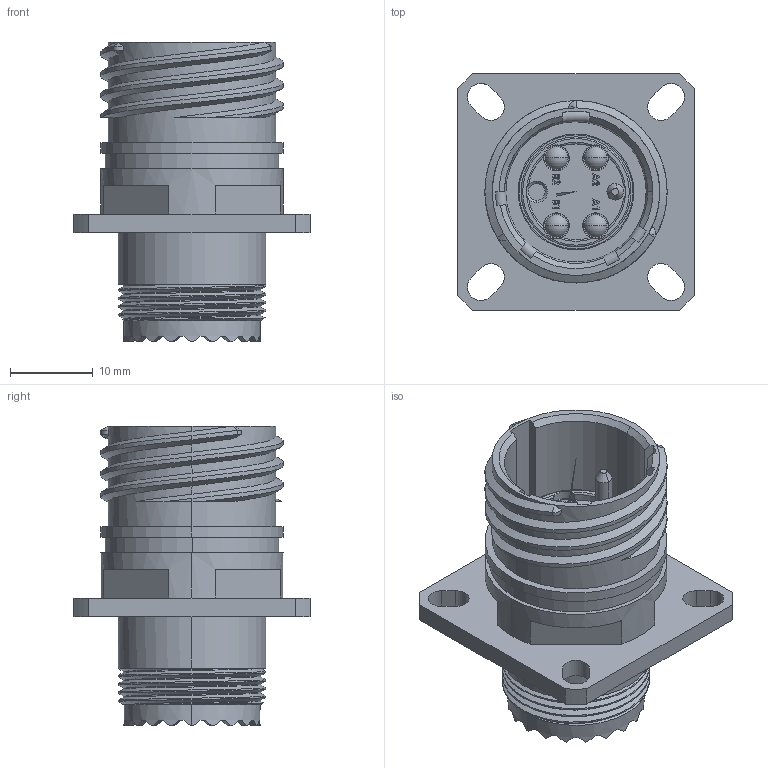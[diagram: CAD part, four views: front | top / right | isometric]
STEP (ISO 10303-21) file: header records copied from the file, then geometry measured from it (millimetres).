
FILE_DESCRIPTION (( 'STEP AP214' ), '1' );
FILE_NAME ('Q38EB-RFX-13XX-X-RA.STEP', '2025-12-15T15:46:54', ( '' ), ( '' ), 'SwSTEP 2.0', 'SolidWorks 2024', '' );
FILE_SCHEMA (( 'AUTOMOTIVE_DESIGN' ));
Length unit declared in the file: millimetre
Products named in the file (1): Q38EB-RFX-13XX-X-RA
Bounding box: 28.6 x 28.6 x 36.32 mm (x, y, z)
Volume: 8362.7 mm3; surface area: 6492.7 mm2
Topology: 2 solids, 2 shells, 445 faces, 1186 edges, 769 vertices
Faces by surface type: plane 223, cylinder 135, bspline 38, cone 29, torus 12, sphere 8
Entity records: 16840 total; most frequent: CARTESIAN_POINT 6193, ORIENTED_EDGE 2354, DIRECTION 2100, EDGE_CURVE 1177, AXIS2_PLACEMENT_3D 771, VERTEX_POINT 769, VECTOR 558, LINE 558
